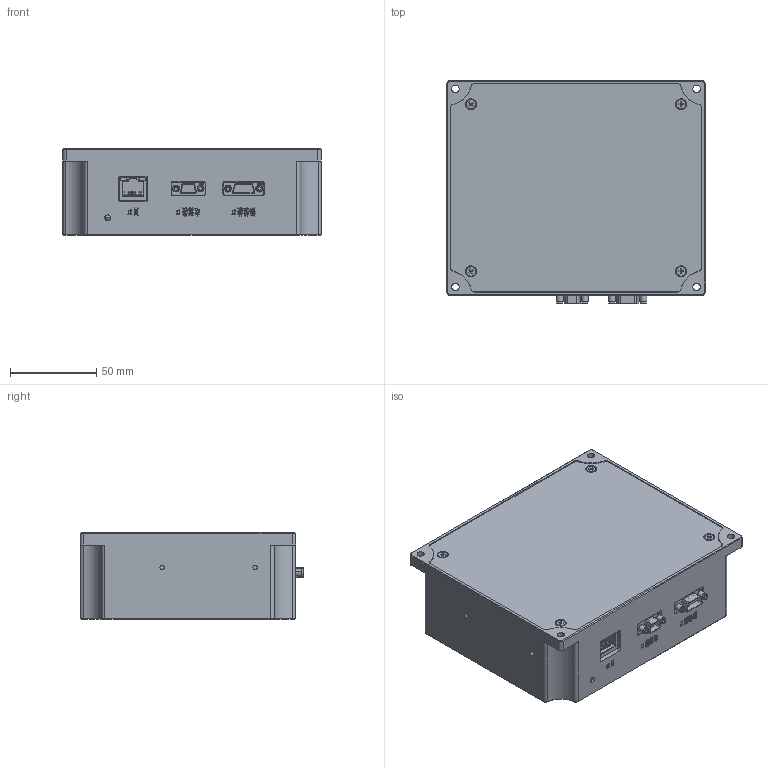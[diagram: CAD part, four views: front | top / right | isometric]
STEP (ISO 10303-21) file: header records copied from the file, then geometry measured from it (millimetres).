
FILE_DESCRIPTION (( 'STEP AP203' ), '1' );
FILE_NAME ('E80.D3S-R.STEP', '2025-07-16T03:13:29', ( 'China' ), ( 'Home' ), 'SwSTEP 2.0', 'SolidWorks 2016', '' );
FILE_SCHEMA (( 'CONFIG_CONTROL_DESIGN' ));
Length unit declared in the file: millimetre
Products named in the file (1): E80.D3S-R
Bounding box: 150 x 129.8 x 50 mm (x, y, z)
Surface area: 109903.9 mm2 (no closed solid volume)
Topology: 0 solids, 35 shells, 439 faces, 4191 edges, 3754 vertices
Faces by surface type: plane 245, cylinder 137, cone 32, bspline 23, sphere 2
Entity records: 45562 total; most frequent: CARTESIAN_POINT 16934, DIRECTION 5125, ORIENTED_EDGE 4965, EDGE_CURVE 4181, VERTEX_POINT 3752, VECTOR 2447, LINE 2447, AXIS2_PLACEMENT_3D 1339
